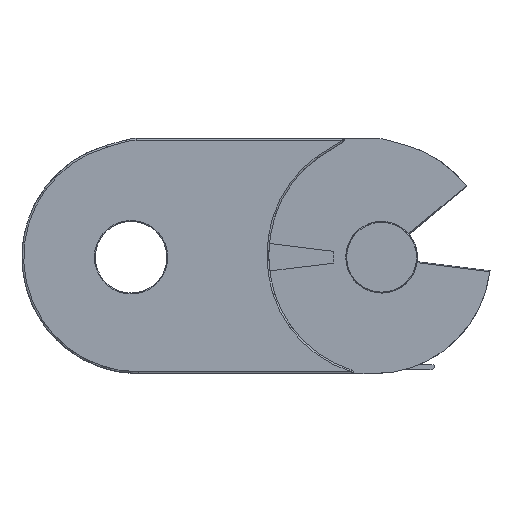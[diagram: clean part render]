
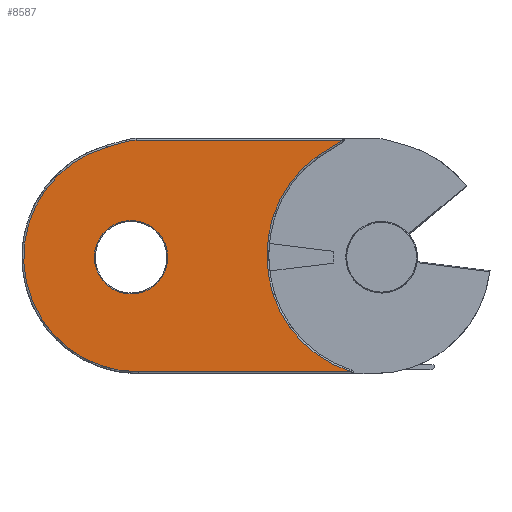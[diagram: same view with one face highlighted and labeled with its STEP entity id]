
A CAD part, left-side view. The second image highlights one B-rep face of the part: STEP entity #8587.
In plain terms, the highlighted planar face has unit normal (-1, 0, 0) as drawn and (0, 0, -1) by its records, which use the part's own axes.
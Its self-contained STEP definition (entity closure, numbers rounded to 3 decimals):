
#8069=CARTESIAN_POINT('',(105.249,139.968,110.528));
#8070=VERTEX_POINT('',#8069);
#8098=CARTESIAN_POINT('',(128.833,172.468,110.528));
#8099=VERTEX_POINT('',#8098);
#8115=CARTESIAN_POINT('',(95.337,171.968,110.528));
#8116=DIRECTION('',(0.,0.,-1.));
#8117=DIRECTION('',(0.809,-0.587,0.));
#8118=AXIS2_PLACEMENT_3D('',#8115,#8116,#8117);
#8119=CIRCLE('',#8118,33.5);
#8120=EDGE_CURVE('',#8099,#8070,#8119,.T.);
#8130=CARTESIAN_POINT('',(114.841,200.205,110.528));
#8131=VERTEX_POINT('',#8130);
#8132=CARTESIAN_POINT('',(95.337,172.968,110.528));
#8133=DIRECTION('',(0.,0.,-1.0));
#8134=DIRECTION('',(0.893,0.45,0.));
#8135=AXIS2_PLACEMENT_3D('',#8132,#8133,#8134);
#8136=CIRCLE('',#8135,33.5);
#8137=EDGE_CURVE('',#8131,#8099,#8136,.T.);
#8183=CARTESIAN_POINT('',(107.835,204.668,110.528));
#8184=VERTEX_POINT('',#8183);
#8192=CARTESIAN_POINT('',(107.835,204.668,110.528));
#8193=DIRECTION('',(0.843,-0.537,0.));
#8194=VECTOR('',#8193,8.308);
#8195=LINE('',#8192,#8194);
#8196=EDGE_CURVE('',#8184,#8131,#8195,.T.);
#8213=CARTESIAN_POINT('',(173.507,202.771,110.528));
#8214=VERTEX_POINT('',#8213);
#8249=CARTESIAN_POINT('',(164.837,139.968,110.528));
#8250=VERTEX_POINT('',#8249);
#8258=CARTESIAN_POINT('',(164.837,171.968,110.528));
#8259=DIRECTION('',(0.,0.,1.0));
#8260=DIRECTION('',(0.991,-0.137,0.));
#8261=AXIS2_PLACEMENT_3D('',#8258,#8259,#8260);
#8262=CIRCLE('',#8261,32.);
#8263=EDGE_CURVE('',#8250,#8214,#8262,.T.);
#8273=CARTESIAN_POINT('',(168.03,204.313,110.528));
#8274=VERTEX_POINT('',#8273);
#8291=CARTESIAN_POINT('',(173.507,202.771,110.528));
#8292=DIRECTION('',(-0.963,0.271,0.0));
#8293=VECTOR('',#8292,5.69);
#8294=LINE('',#8291,#8293);
#8295=EDGE_CURVE('',#8214,#8274,#8294,.T.);
#8312=CARTESIAN_POINT('',(105.249,139.968,110.528));
#8313=DIRECTION('',(1.0,0.0,0.0));
#8314=VECTOR('',#8313,59.588);
#8315=LINE('',#8312,#8314);
#8316=EDGE_CURVE('',#8070,#8250,#8315,.T.);
#8328=CARTESIAN_POINT('',(165.456,204.668,110.528));
#8329=VERTEX_POINT('',#8328);
#8345=CARTESIAN_POINT('',(165.456,195.168,110.528));
#8346=DIRECTION('',(0.,0.,1.));
#8347=DIRECTION('',(0.137,0.991,0.));
#8348=AXIS2_PLACEMENT_3D('',#8345,#8346,#8347);
#8349=CIRCLE('',#8348,9.5);
#8350=EDGE_CURVE('',#8274,#8329,#8349,.T.);
#8369=CARTESIAN_POINT('',(165.456,204.668,110.528));
#8370=DIRECTION('',(-1.0,0.0,0.0));
#8371=VECTOR('',#8370,57.621);
#8372=LINE('',#8369,#8371);
#8373=EDGE_CURVE('',#8329,#8184,#8372,.T.);
#8561=CARTESIAN_POINT('',(128.779,172.346,110.528));
#8562=DIRECTION('',(0.0,0.0,1.0));
#8563=DIRECTION('',(1.0,0.0,0.0));
#8564=AXIS2_PLACEMENT_3D('',#8561,#8562,#8563);
#8565=PLANE('',#8564);
#8566=ORIENTED_EDGE('',*,*,#8263,.F.);
#8567=ORIENTED_EDGE('',*,*,#8316,.F.);
#8568=ORIENTED_EDGE('',*,*,#8120,.F.);
#8569=ORIENTED_EDGE('',*,*,#8137,.F.);
#8570=ORIENTED_EDGE('',*,*,#8196,.F.);
#8571=ORIENTED_EDGE('',*,*,#8373,.F.);
#8572=ORIENTED_EDGE('',*,*,#8350,.F.);
#8573=ORIENTED_EDGE('',*,*,#8295,.F.);
#8574=EDGE_LOOP('',(#8566,#8567,#8568,#8569,#8570,#8571,#8572,#8573));
#8575=FACE_OUTER_BOUND('',#8574,.T.);
#8576=CARTESIAN_POINT('',(177.087,171.968,110.528));
#8577=VERTEX_POINT('',#8576);
#8578=CARTESIAN_POINT('',(166.837,171.968,110.528));
#8579=DIRECTION('',(0.0,0.0,-1.0));
#8580=DIRECTION('',(-1.0,0.0,0.0));
#8581=AXIS2_PLACEMENT_3D('',#8578,#8579,#8580);
#8582=CIRCLE('',#8581,10.25);
#8583=EDGE_CURVE('',#8577,#8577,#8582,.T.);
#8584=ORIENTED_EDGE('',*,*,#8583,.F.);
#8585=EDGE_LOOP('',(#8584));
#8586=FACE_BOUND('',#8585,.T.);
#8587=ADVANCED_FACE('',(#8575,#8586),#8565,.F.);
